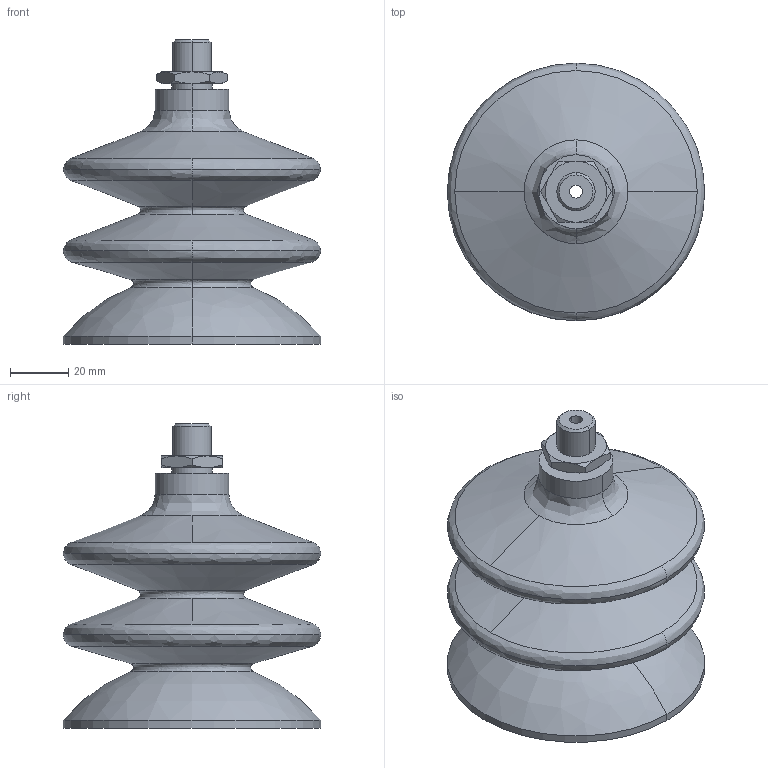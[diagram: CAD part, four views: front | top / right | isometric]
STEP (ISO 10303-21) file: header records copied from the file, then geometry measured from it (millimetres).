
FILE_DESCRIPTION (( 'STEP AP203' ), '1' );
FILE_NAME ('FSG-88-NBR-55.STEP', '2024-03-04T03:26:31', ( '微软用户' ), ( '微软中国' ), 'SwSTEP 2.0', 'SolidWorks 2018', '' );
FILE_SCHEMA (( 'CONFIG_CONTROL_DESIGN' ));
Length unit declared in the file: millimetre
Products named in the file (1): FSG-88-NBR-55
Bounding box: 88.39 x 88.39 x 104.5 mm (x, y, z)
Volume: 148115.9 mm3; surface area: 58467 mm2
Topology: 1 solids, 1 shells, 95 faces, 202 edges, 115 vertices
Faces by surface type: bspline 34, cone 31, cylinder 16, plane 14
Entity records: 3308 total; most frequent: CARTESIAN_POINT 1269, DIRECTION 435, ORIENTED_EDGE 404, EDGE_CURVE 202, AXIS2_PLACEMENT_3D 197, CIRCLE 135, VERTEX_POINT 115, EDGE_LOOP 103
